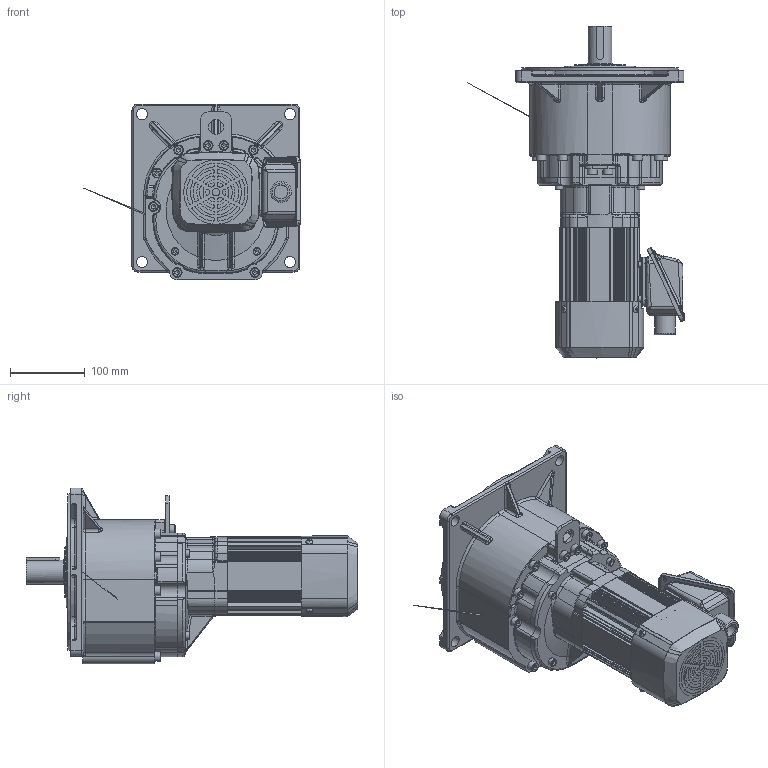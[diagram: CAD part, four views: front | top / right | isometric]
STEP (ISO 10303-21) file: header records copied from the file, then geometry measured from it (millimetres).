
FILE_DESCRIPTION( ( 'Unknown' ), '1' );
FILE_NAME( 'W:/gm/3D-WEB/GV-S/完成品/モータ+減速機/パーツデータ/完成品(GV-SF_0.4kw_ブレーキ付_GM).stp', 'Unknown', ( 'Unknown' ), ( 'Unknown' ), 'PSStep 11.0', 'Unknown', ' ' );
FILE_SCHEMA( ( 'AUTOMOTIVE_DESIGN { 1 0 10303 214 1 1 1 1 }' ) );
Length unit declared in the file: millimetre
Products named in the file (3): 尭懍婡(GV-S_套菁迬鏁t0.4k
Bounding box: 291.1 x 444.5 x 235.5 mm (x, y, z)
Volume: 5453460.3 mm3; surface area: 661806.8 mm2
Topology: 4 solids, 36 shells, 2489 faces, 6257 edges, 3903 vertices
Faces by surface type: cylinder 1034, plane 877, torus 261, bspline 217, cone 58, sphere 36, offset 6
Full cylindrical faces by diameter (mm): 3.3 x4, 3.8 x4, 4 x6, 4.134 x12, 4.5 x12, 4.6 x4, 5.8 x4, 6 x8, 6.8 x9, 7 x10, 8 x12, 8.2 x1, 8.5 x2, 9 x8, 9.7 x4, 10 x16, 13 x10, 15 x5, 16 x1, 18.631 x2, 20 x1, 22 x1, 28 x1, 32 x1, 34 x1, 34.5 x1, 35 x3, 42 x2, 46 x1, 47 x2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
Entity records: 121221 total; most frequent: CARTESIAN_POINT 43705, DIRECTION 12391, ORIENTED_EDGE 11628, EDGE_CURVE 5814, AXIS2_PLACEMENT_3D 4991, VERTEX_POINT 3789, EDGE_LOOP 2914, FACE_OUTER_BOUND 2681
